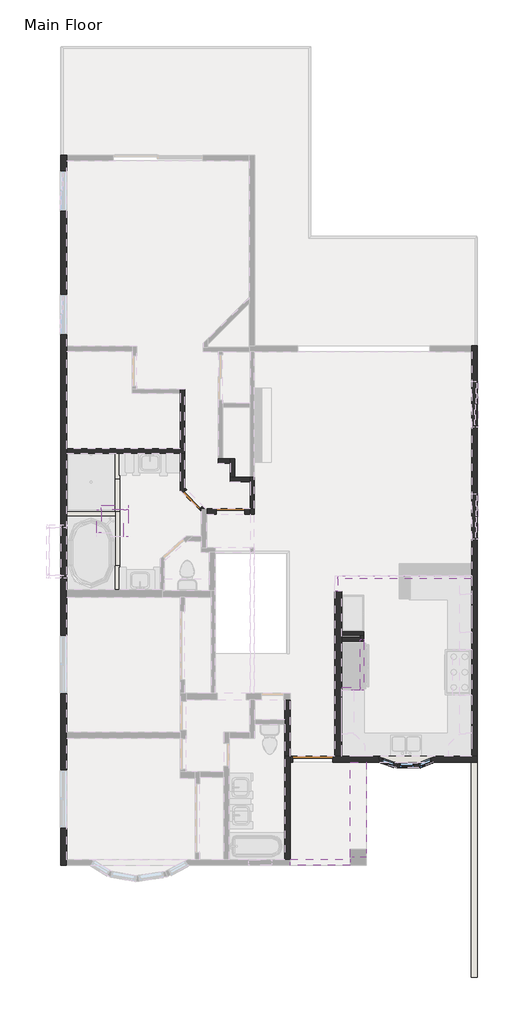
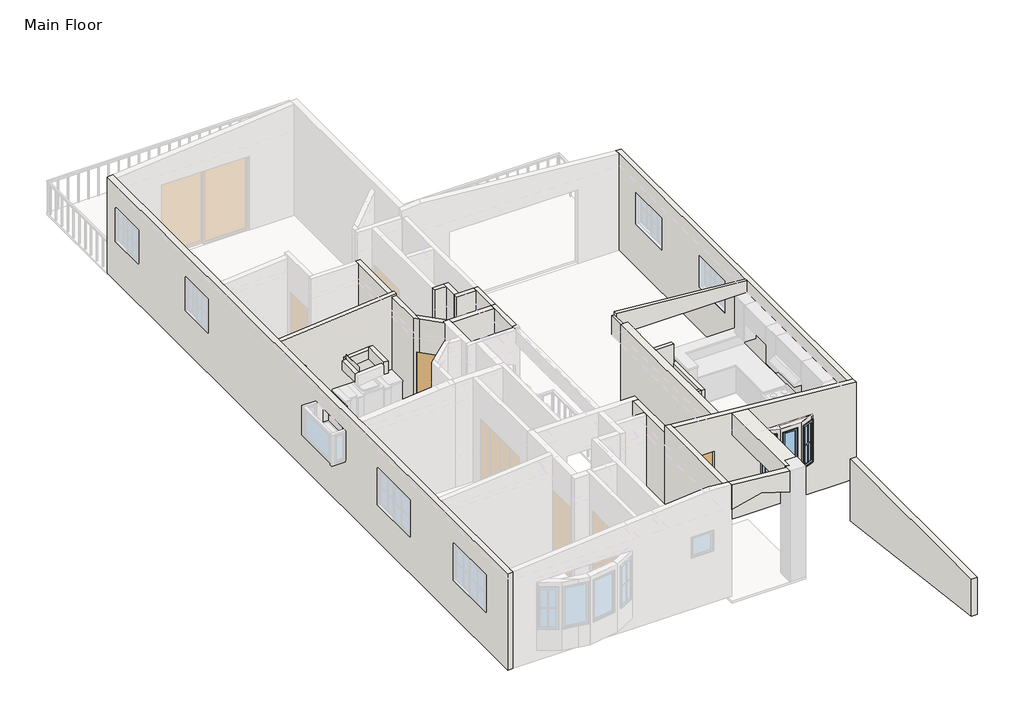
# One storey, part 2 of 5: 34 walls, 3 doors, 3 windows.
"""IFC4 building model written with IfcOpenShell, lengths in millimetres."""

from ifc_helpers import new_model, si_unit, frame, origin, place, context, project, spatial, polyline, circle_curve, outline, extrude, faceted_brep, transform, mapped, element, save
from ifc_brep_helpers import plane_surface, revolved_surface, advanced_brep
from components import door_c08c9a8a, door_87ea4745, door_3a0eedbf, default_1_126ee384, default_1_4d59abb0

model = new_model("IFC4")

# Units and contexts
model_context = context("Model", 3, world=origin())
ifc_project = project(units=[si_unit("LENGTHUNIT", "METRE", prefix="MILLI")], contexts=[model_context])

# Site, building, storey
site = spatial("IfcSite", under=ifc_project)
building = spatial("IfcBuilding", under=site)
storey = spatial("IfcBuildingStorey", under=building, Name="Main Floor", Elevation=0.0)

# Doors
placement = place(None, origin())
door_shape = door_c08c9a8a(model_context)
element("IfcDoor", 1, ObjectType="Planitar - Single Door_Flush Panel : 2'-6\" x 6'-8\" @45", at=placement, inside=storey, context=model_context, shape_type="MappedRepresentation", body=[
    mapped(door_shape, transform((-1337.5505931, 343.2061456, 0.0), x_axis=(1.0, 0.0, 0.0), y_axis=(0.0, 1.0, 0.0), z_axis=(0.0, 0.0, 1.0))),
])
door_2_shape = door_87ea4745(model_context)
element("IfcDoor", 2, ObjectType="Planitar - Single Door_Flush Panel : 2'-0\" x 6'-8\"", at=placement, inside=storey, context=model_context, shape_type="MappedRepresentation", body=[
    mapped(door_2_shape, transform((-2340.0457085, 658.2670783, 0.0), x_axis=(0.7071067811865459, -0.7071067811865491, 0.0), y_axis=(0.7071067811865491, 0.7071067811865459, 0.0), z_axis=(0.0, 0.0, 1.0))),
])
door_3_shape = door_3a0eedbf(model_context)
element("IfcDoor", 3, ObjectType="Planitar - Single Door_Flush Panel : 3'-6\" x 6'-8\"", at=placement, inside=storey, context=model_context, shape_type="MappedRepresentation", body=[
    mapped(door_3_shape, transform((841.2931569, -6241.7438544, 0.0), x_axis=(1.0, 0.0, 0.0), y_axis=(0.0, 1.0, 0.0), z_axis=(0.0, 0.0, 1.0))),
])

# Walls
element("IfcWall", 4, ObjectType="Planitar - Generic 6\"", at=placement, inside=storey, context=model_context, shape_type="Brep", body=[
    faceted_brep([(-5842.8755931, 9804.7061456, 0.0), (-5842.8755931, -9054.7938544, 0.0), (-5842.8755931, -9054.7938544, 2761.2885737), (-5842.8755931, 9804.7061456, 2761.2885737), (-5842.8755931, -6527.4938544, 2133.6), (-5842.8755931, -8051.4938544, 2133.6), (-5842.8755931, -8051.4938544, 1066.8), (-5842.8755931, -6527.4938544, 1066.8), (-5842.8755931, -2955.6188544, 2133.6), (-5842.8755931, -4479.6188544, 2133.6), (-5842.8755931, -4479.6188544, 1066.8), (-5842.8755931, -2955.6188544, 1066.8), (-5842.8755931, 6104.2436456, 2133.6), (-5842.8755931, 5037.4436456, 2133.6), (-5842.8755931, 5037.4436456, 1168.4), (-5842.8755931, 6104.2436456, 1168.4), (-5842.8755931, 9385.6061456, 2133.6), (-5842.8755931, 8318.8061456, 2133.6), (-5842.8755931, 8318.8061456, 1168.4), (-5842.8755931, 9385.6061456, 1168.4), (-5842.8755931, -12.3938544, 1422.4), (-5842.8755931, -12.3938544, 2235.2), (-5842.8755931, -12.3938544, 2260.6), (-5842.8755931, -88.5938544, 2260.6), (-5842.8755931, -1352.2438544, 2260.6), (-5842.8755931, -1428.4438544, 2260.6), (-5842.8755931, -1428.4438544, 2235.2), (-5842.8755931, -1428.4438544, 1422.4), (-5690.4755931, 9804.7061456, 0.0), (-5690.4755931, 9804.7061456, 2774.621846), (-5690.4755931, 9652.3061456, 2774.621846), (-5690.4755931, 4731.0561456, 2774.621846), (-5690.4755931, 4591.3561456, 2774.621846), (-5690.4755931, 2006.9061456, 2774.621846), (-5690.4755931, 1892.6061456, 2774.621846), (-5690.4755931, -1733.2438544, 2774.621846), (-5690.4755931, -1936.4438544, 2774.621846), (-5690.4755931, -5524.1938544, 2774.621846), (-5690.4755931, -5676.5938544, 2774.621846), (-5690.4755931, -8902.3938544, 2774.621846), (-5690.4755931, -9054.7938544, 2774.621846), (-5690.4755931, -9054.7938544, 0.0), (-5690.4755931, -8902.3938544, 0.0), (-5690.4755931, -5676.5938544, 0.0), (-5690.4755931, -5524.1938544, 0.0), (-5690.4755931, -1936.4438544, 0.0), (-5690.4755931, -1733.2438544, 0.0), (-5690.4755931, 215.6197467, 0.0), (-5690.4755931, 329.9197467, 0.0), (-5690.4755931, 1892.6061456, 0.0), (-5690.4755931, 2006.9061456, 0.0), (-5690.4755931, 4591.3561456, 0.0), (-5690.4755931, 4731.0561456, 0.0), (-5690.4755931, 9652.3061456, 0.0), (-5690.4755931, -12.3938544, 1422.4), (-5690.4755931, -88.5938544, 1422.4), (-5690.4755931, -1428.4438544, 1422.4), (-5690.4755931, -1428.4438544, 2260.6), (-5690.4755931, -1352.2438544, 2260.6), (-5690.4755931, -88.5938544, 2260.6), (-5690.4755931, -12.3938544, 2260.6), (-5690.4755931, -6527.4938544, 2133.6), (-5690.4755931, -6527.4938544, 1066.8), (-5690.4755931, -8051.4938544, 1066.8), (-5690.4755931, -8051.4938544, 2133.6), (-5690.4755931, -2955.6188544, 2133.6), (-5690.4755931, -2955.6188544, 1066.8), (-5690.4755931, -4479.6188544, 1066.8), (-5690.4755931, -4479.6188544, 2133.6), (-5690.4755931, 6104.2436456, 2133.6), (-5690.4755931, 6104.2436456, 1168.4), (-5690.4755931, 5037.4436456, 1168.4), (-5690.4755931, 5037.4436456, 2133.6), (-5690.4755931, 9385.6061456, 2133.6), (-5690.4755931, 9385.6061456, 1168.4), (-5690.4755931, 8318.8061456, 1168.4), (-5690.4755931, 8318.8061456, 2133.6)], [[[0, 1, 2, 3], [4, 5, 6, 7], [8, 9, 10, 11], [12, 13, 14, 15], [16, 17, 18, 19], [20, 21, 22, 23, 24, 25, 26, 27]], [[28, 29, 30, 31, 32, 33, 34, 35, 36, 37, 38, 39, 40, 41, 42, 43, 44, 45, 46, 47, 48, 49, 50, 51, 52, 53], [54, 55, 56, 57, 58, 59, 60], [61, 62, 63, 64], [65, 66, 67, 68], [69, 70, 71, 72], [73, 74, 75, 76]], [[0, 3, 29, 28]], [[3, 2, 40, 39, 38, 37, 36, 35, 34, 33, 32, 31, 30, 29]], [[2, 1, 41, 40]], [[1, 0, 28, 53, 52, 51, 50, 49, 48, 47, 46, 45, 44, 43, 42, 41]], [[25, 24, 23, 22, 60, 59, 58, 57]], [[20, 27, 56, 55, 54]], [[22, 21, 20, 54, 60]], [[27, 26, 25, 57, 56]], [[62, 61, 4, 7]], [[63, 62, 7, 6]], [[64, 63, 6, 5]], [[61, 64, 5, 4]], [[66, 65, 8, 11]], [[67, 66, 11, 10]], [[68, 67, 10, 9]], [[65, 68, 9, 8]], [[70, 69, 12, 15]], [[71, 70, 15, 14]], [[72, 71, 14, 13]], [[69, 72, 13, 12]], [[74, 73, 16, 19]], [[75, 74, 19, 18]], [[76, 75, 18, 17]], [[73, 76, 17, 16]]]),
])
element("IfcWall", 5, ObjectType="Planitar - Generic 6\"", at=placement, inside=storey, context=model_context, shape_type="Brep", body=[
    faceted_brep([(253.1244069, -8902.3938544, 3195.7310301), (253.1244069, -8902.3938544, 0.0), (253.1244069, -6317.9438544, 0.0), (253.1244069, -6165.5438544, 0.0), (253.1244069, -6165.5438544, 2997.2), (253.1244069, -6165.5438544, 3195.7310301), (253.1244069, -6317.9438544, 3195.7310301), (253.1244069, -8889.6938544, 3195.7310301), (100.7244069, -8902.3938544, 0.0), (100.7244069, -8902.3938544, 3209.0643025), (100.7244069, -6165.5438544, 3209.0643025), (100.7244069, -6165.5438544, 2997.2), (100.7244069, -6165.5438544, 0.0), (100.7244069, -6317.9438544, 0.0)], [[[0, 1, 2, 3, 4, 5, 6, 7]], [[8, 9, 10, 11, 12, 13]], [[3, 2, 1, 8, 13, 12]], [[5, 4, 3, 12, 11, 10]], [[0, 7, 6, 5, 10, 9]], [[0, 9, 8, 1]]]),
])
element("IfcWall", 6, ObjectType="Planitar - Generic 6\"", at=placement, inside=storey, context=model_context, shape_type="Brep", body=[
    faceted_brep([(5218.8244069, -6317.9438544, 2761.2885737), (2270.9820668, -6317.9438544, 3019.1913603), (1839.1820668, -6317.9438544, 3056.9689652), (253.1244069, -6317.9438544, 3195.7310301), (253.1244069, -6317.9438544, 0.0), (307.8931569, -6317.9438544, 0.0), (307.8931569, -6317.9438544, 2133.6), (1374.6931569, -6317.9438544, 2133.6), (1374.6931569, -6317.9438544, 0.0), (4875.9244069, -6317.9438544, 0.0), (5218.8244069, -6317.9438544, 0.0), (5218.8244069, -6317.9438544, 609.6), (2628.4521069, -6317.9438544, 2260.6), (3696.5240104, -6317.9438544, 2260.6), (3696.5240104, -6317.9438544, 2133.6), (4020.7133617, -6317.9438544, 2133.6), (4020.7133617, -6317.9438544, 914.4), (3696.5240104, -6317.9438544, 914.4), (3026.7162146, -6317.9438544, 914.4), (2628.4521069, -6317.9438544, 914.4), (253.1244069, -6165.5438544, 3195.7310301), (5066.4244069, -6165.5438544, 2774.621846), (5218.8244069, -6165.5438544, 2761.2885737), (5218.8244069, -6165.5438544, 0.0), (5066.4244069, -6165.5438544, 0.0), (4875.9244069, -6165.5438544, 0.0), (1618.3744069, -6165.5438544, 0.0), (1427.8744069, -6165.5438544, 0.0), (1374.6931569, -6165.5438544, 0.0), (1374.6931569, -6165.5438544, 2133.6), (307.8931569, -6165.5438544, 2133.6), (307.8931569, -6165.5438544, 0.0), (253.1244069, -6165.5438544, 0.0), (4093.5395839, -6165.5438544, 2260.6), (2573.7495146, -6165.5438544, 2260.6), (2573.7495146, -6165.5438544, 914.4), (4093.5395839, -6165.5438544, 914.4), (3979.0785055, -6209.4813458, 914.4), (3979.0785055, -6209.4813458, 2133.6)], [[[0, 1, 2, 3, 4, 5, 6, 7, 8, 9, 10, 11], [12, 13, 14, 15, 16, 17, 18, 19]], [[20, 21, 22, 23, 24, 25, 26, 27, 28, 29, 30, 31, 32], [33, 34, 35, 36]], [[3, 2, 1, 0, 22, 21, 20]], [[37, 16, 15, 38]], [[38, 15, 14]], [[0, 11, 10, 23, 22]], [[31, 30, 6, 5]], [[30, 29, 7, 6]], [[29, 28, 8, 7]], [[4, 3, 20, 32]], [[31, 5, 4, 32]], [[8, 28, 27, 26, 25, 24, 23, 10, 9]], [[13, 12, 34, 33]], [[36, 35, 19, 18, 17, 16, 37]], [[12, 19, 35, 34]], [[13, 33, 36, 37, 38, 14]]]),
])
element("IfcWall", 7, ObjectType="Planitar - Generic 6\"", at=placement, inside=storey, context=model_context, shape_type="Brep", body=[
    faceted_brep([(5218.8244069, -6165.5438544, 0.0), (5218.8244069, -2895.2938544, 0.0), (5218.8244069, 4737.4061456, 0.0), (5218.8244069, 4737.4061456, 2761.2885737), (5218.8244069, -6165.5438544, 2761.2885737), (5218.8244069, 2583.9623956, 2133.6), (5218.8244069, 3803.1623956, 2133.6), (5218.8244069, 3803.1623956, 1219.2), (5218.8244069, 2583.9623956, 1219.2), (5218.8244069, -402.9188544, 1219.2), (5218.8244069, -402.9188544, 2133.6), (5218.8244069, 816.2811456, 2133.6), (5218.8244069, 816.2811456, 1219.2), (5066.4244069, 4737.4061456, 0.0), (5066.4244069, 4585.0061456, 0.0), (5066.4244069, -6165.5438544, 0.0), (5066.4244069, -6165.5438544, 2774.621846), (5066.4244069, -1441.1438544, 2774.621846), (5066.4244069, -1364.9438544, 2774.621846), (5066.4244069, 4585.0061456, 2774.621846), (5066.4244069, 4737.4061456, 2774.621846), (5066.4244069, 2583.9623956, 2133.6), (5066.4244069, 2583.9623956, 1219.2), (5066.4244069, 3803.1623956, 1219.2), (5066.4244069, 3803.1623956, 2133.6), (5066.4244069, -402.9188544, 2133.6), (5066.4244069, -402.9188544, 1219.2), (5066.4244069, 816.2811456, 1219.2), (5066.4244069, 816.2811456, 2133.6)], [[[0, 1, 2, 3, 4], [5, 6, 7, 8], [9, 10, 11, 12]], [[13, 14, 15, 16, 17, 18, 19, 20], [21, 22, 23, 24], [25, 26, 27, 28]], [[2, 1, 0, 15, 14, 13]], [[3, 2, 13, 20]], [[4, 3, 20, 19, 18, 17, 16]], [[22, 21, 5, 8]], [[23, 22, 8, 7]], [[24, 23, 7, 6]], [[21, 24, 6, 5]], [[25, 10, 9, 26]], [[26, 9, 12, 27]], [[27, 12, 11, 28]], [[10, 25, 28, 11]], [[15, 0, 4, 16]]]),
])
element("IfcWall", 8, ObjectType="Planitar - Generic 7 1/2\"", at=placement, inside=storey, context=model_context, shape_type="Brep", body=[
    faceted_brep([(1427.8744069, -1784.0438544, 0.0), (1427.8744069, -6165.5438544, 0.0), (1427.8744069, -6165.5438544, 2997.2), (1427.8744069, -1784.0438544, 2997.2), (1427.8744069, -1784.0438544, 2451.1), (1618.3744069, -1784.0438544, 0.0), (1618.3744069, -1784.0438544, 2997.2), (1618.3744069, -2996.8938544, 2997.2), (1618.3744069, -3111.1938544, 2997.2), (1618.3744069, -6165.5438544, 2997.2), (1618.3744069, -6165.5438544, 0.0), (1618.3744069, -3111.1938544, 0.0), (1618.3744069, -2996.8938544, 0.0), (1618.3744069, -2939.7438544, 0.0), (1618.3744069, -2850.8438544, 0.0), (1504.0744069, -1784.0438544, 2997.2)], [[[0, 1, 2, 3, 4]], [[5, 6, 7, 8, 9, 10, 11, 12, 13, 14]], [[1, 0, 5, 14, 13, 12, 11, 10]], [[3, 2, 9, 8, 7, 6, 15]], [[0, 4, 3, 15, 6, 5]], [[2, 1, 10, 9]]]),
])
element("IfcWall", 9, ObjectType="Planitar - Generic 5\"", at=placement, inside=storey, context=model_context, shape_type="Brep", body=[
    faceted_brep([(2628.4521069, -6317.9438544, 876.3), (3081.4188069, -6470.3438544, 876.3), (3081.4188069, -6470.3438544, 2260.6), (2628.4521069, -6317.9438544, 2260.6), (2656.6541713, -6327.4323987, 914.4), (2656.6541713, -6327.4323987, 2133.6), (2993.6896447, -6440.8275029, 2133.6), (2993.6896447, -6440.8275029, 914.4), (3102.2106646, -6343.3438544, 876.3), (2573.7495146, -6165.5438544, 876.3), (2573.7495146, -6165.5438544, 2260.6), (3102.2106646, -6343.3438544, 2260.6), (2697.1524228, -6207.0625868, 2133.6), (2697.1524228, -6207.0625868, 914.4), (3034.1878962, -6320.457691, 914.4), (3034.1878962, -6320.457691, 2133.6)], [[[0, 1, 2, 3], [4, 5, 6, 7]], [[8, 9, 10, 11], [12, 13, 14, 15]], [[1, 0, 9, 8]], [[3, 2, 11, 10]], [[2, 1, 8, 11]], [[12, 5, 4, 13]], [[13, 4, 7, 14]], [[14, 7, 6, 15]], [[5, 12, 15, 6]], [[9, 0, 3, 10]]]),
])
element("IfcWall", 10, ObjectType="Planitar - Generic 5\"", at=placement, inside=storey, context=model_context, shape_type="Brep", body=[
    faceted_brep([(3081.4188069, -6470.3438544, 876.3), (3653.8928069, -6470.3438544, 876.3), (3653.8928069, -6470.3438544, 2260.6), (3081.4188069, -6470.3438544, 2260.6), (3546.62509, -6470.3438544, 914.4), (3140.22509, -6470.3438544, 914.4), (3140.22509, -6470.3438544, 2133.6), (3546.62509, -6470.3438544, 2133.6), (3984.7391181, -6343.3438544, 876.3), (3630.3547482, -6343.3438544, 876.3), (3102.2106646, -6343.3438544, 876.3), (3102.2106646, -6343.3438544, 2260.6), (3630.3547482, -6343.3438544, 2260.6), (3984.7391181, -6343.3438544, 2260.6), (3984.7391181, -6343.3438544, 2133.6), (3649.5643485, -6343.3438544, 2133.6), (3649.5643485, -6343.3438544, 914.4), (3984.7391181, -6343.3438544, 914.4), (3546.62509, -6343.3438544, 914.4), (3546.62509, -6343.3438544, 2133.6), (3140.22509, -6343.3438544, 2133.6), (3140.22509, -6343.3438544, 914.4), (3692.6100354, -6455.4817028, 914.4), (3692.6100354, -6455.4817028, 2133.6)], [[[0, 1, 2, 3], [4, 5, 6, 7]], [[8, 9, 10, 11, 12, 13, 14, 15, 16, 17], [18, 19, 20, 21]], [[1, 0, 10, 9, 8]], [[3, 2, 13, 12, 11]], [[0, 3, 11, 10]], [[2, 1, 8, 17, 22, 23, 14, 13]], [[19, 18, 4, 7]], [[20, 19, 7, 6]], [[21, 20, 6, 5]], [[18, 21, 5, 4]], [[15, 23, 22, 16]], [[16, 22, 17]], [[23, 15, 14]]]),
])
element("IfcWall", 11, ObjectType="Planitar - Generic 5\"", at=placement, inside=storey, context=model_context, shape_type="Brep", body=[
    faceted_brep([(3984.7391181, -6343.3438544, 876.3), (4050.9083803, -6317.9438544, 876.3), (4050.9083803, -6317.9438544, 2260.6), (3984.7391181, -6343.3438544, 2260.6), (3984.7391181, -6343.3438544, 2133.6), (4024.5912351, -6328.0460599, 2133.6), (4024.5912351, -6328.0460599, 914.4), (3984.7391181, -6343.3438544, 914.4), (3696.5240104, -6317.9438544, 876.3), (3630.3547482, -6343.3438544, 876.3), (3630.3547482, -6343.3438544, 2260.6), (3696.5240104, -6317.9438544, 2260.6), (3696.5240104, -6317.9438544, 2133.6), (3647.0973058, -6336.9169886, 2133.6), (3647.0973058, -6336.9169886, 914.4), (3696.5240104, -6317.9438544, 914.4), (3649.5643485, -6343.3438544, 914.4), (3649.5643485, -6343.3438544, 2133.6), (4020.7133617, -6317.9438544, 914.4), (4020.7133617, -6317.9438544, 2133.6)], [[[0, 1, 2, 3, 4, 5, 6, 7]], [[8, 9, 10, 11, 12, 13, 14, 15]], [[1, 0, 9, 8]], [[3, 2, 11, 10]], [[3, 10, 9, 0, 7, 16, 17, 4]], [[13, 17, 16, 14]], [[14, 16, 7, 6, 18, 15]], [[18, 6, 5, 19]], [[17, 13, 12, 19, 5, 4]], [[2, 1, 8, 15, 18, 19, 12, 11]]]),
])
element("IfcWall", 12, ObjectType="Planitar - Generic 6\"", at=placement, inside=storey, context=model_context, shape_type="Brep", body=[
    faceted_brep([(100.7244069, -4654.2438544, 0.0), (100.7244069, -5193.9938544, 0.0), (100.7244069, -5308.2938544, 0.0), (100.7244069, -6165.5438544, 0.0), (100.7244069, -6165.5438544, 2997.2), (100.7244069, -5308.2938544, 2997.2), (100.7244069, -5193.9938544, 2997.2), (100.7244069, -4654.2438544, 2997.2), (253.1244069, -4654.2438544, 0.0), (253.1244069, -4654.2438544, 2997.2), (253.1244069, -6165.5438544, 2997.2), (253.1244069, -6165.5438544, 0.0)], [[[0, 1, 2, 3, 4, 5, 6, 7]], [[8, 9, 10, 11]], [[3, 2, 1, 0, 8, 11]], [[7, 6, 5, 4, 10, 9]], [[4, 3, 11, 10]], [[0, 7, 9, 8]]]),
])
element("IfcWall", 13, ObjectType="Planitar - Generic 6\"", at=placement, inside=storey, context=model_context, shape_type="Brep", body=[
    faceted_brep([(-956.5505931, 267.0061456, 2032.0), (-956.5505931, 267.0061456, 0.0), (-820.0255931, 267.0061456, 0.0), (-820.0255931, 267.0061456, 2001.1338916), (-820.0255931, 267.0061456, 2997.2), (-1969.3755931, 267.0061456, 2997.2), (-1969.3755931, 267.0061456, 0.0), (-1718.5505931, 267.0061456, 0.0), (-1718.5505931, 267.0061456, 2032.0), (-820.0255931, 419.4061456, 0.0), (-956.5505931, 419.4061456, 0.0), (-956.5505931, 419.4061456, 2032.0), (-1718.5505931, 419.4061456, 2032.0), (-1718.5505931, 419.4061456, 0.0), (-1969.3755931, 419.4061456, 0.0), (-1969.3755931, 419.4061456, 2997.2), (-820.0255931, 419.4061456, 2997.2)], [[[0, 1, 2, 3, 4, 5, 6, 7, 8]], [[9, 10, 11, 12, 13, 14, 15, 16]], [[7, 6, 14, 13]], [[2, 1, 10, 9]], [[5, 4, 16, 15]], [[6, 5, 15, 14]], [[2, 9, 16, 4, 3]], [[11, 10, 1, 0]], [[12, 11, 0, 8]], [[13, 12, 8, 7]]]),
])
element("IfcWall", 14, ObjectType="Planitar - Generic 4 1/2\"", at=placement, inside=storey, context=model_context, shape_type="Brep", body=[
    faceted_brep([(-5690.4755931, 1892.6061456, 0.0), (-4394.2755931, 1892.6061456, 0.0), (-4279.9755931, 1892.6061456, 0.0), (-2667.8755931, 1892.6061456, 0.0), (-2553.5755931, 1892.6061456, 0.0), (-2553.5755931, 1892.6061456, 2997.2), (-2553.5755931, 1892.6061456, 3049.0650346), (-5690.4755931, 1892.6061456, 2774.621846), (-5690.4755931, 2006.9061456, 0.0), (-5690.4755931, 2006.9061456, 2774.621846), (-2553.5755931, 2006.9061456, 3049.0650346), (-2553.5755931, 2006.9061456, 2997.2), (-2553.5755931, 2006.9061456, 0.0), (-2667.8755931, 2006.9061456, 0.0)], [[[0, 1, 2, 3, 4, 5, 6, 7]], [[8, 9, 10, 11, 12, 13]], [[4, 3, 2, 1, 0, 8, 13, 12]], [[0, 7, 9, 8]], [[6, 5, 4, 12, 11, 10]], [[7, 6, 10, 9]]]),
])
element("IfcWall", 15, ObjectType="Planitar - Generic 4 1/2\"", at=placement, inside=storey, context=model_context, shape_type="Brep", body=[
    faceted_brep([(-2667.8755931, 1892.6061456, 0.0), (-2667.8755931, 887.3141456, 0.0), (-2667.8755931, 887.3141456, 2997.2), (-2667.8755931, 1892.6061456, 2997.2), (-2553.5755931, 1892.6061456, 2997.2), (-2553.5755931, 970.5797803, 2997.2), (-2553.5755931, 773.0141456, 2997.2), (-2553.5755931, 773.0141456, 2032.0), (-2553.5755931, 875.7894875, 2032.0), (-2553.5755931, 875.7894875, 0.0), (-2553.5755931, 970.5797803, 0.0), (-2553.5755931, 1892.6061456, 0.0), (-2604.963264, 824.4018165, 0.0), (-2604.963264, 824.4018165, 2032.0)], [[[0, 1, 2, 3]], [[4, 5, 6, 7, 8, 9, 10, 11]], [[1, 0, 11, 10, 9, 12]], [[3, 2, 6, 5, 4]], [[0, 3, 4, 11]], [[2, 1, 12, 13, 7, 6]], [[13, 8, 7]], [[8, 13, 12, 9]]]),
])
element("IfcWall", 16, ObjectType="Planitar - Generic 5 1/2\"", at=placement, inside=storey, context=model_context, shape_type="Brep", body=[
    faceted_brep([(-2121.7755931, 341.2141456, 2997.2), (-2553.5755931, 773.0141456, 2997.2), (-2553.5755931, 773.0141456, 2032.0), (-2173.9109702, 393.3495227, 2032.0), (-2173.9109702, 393.3495227, 0.0), (-2121.7755931, 341.2141456, 0.0), (-2002.4019585, 419.4061456, 2997.2), (-2002.4019585, 419.4061456, 0.0), (-2075.1281529, 492.1323401, 0.0), (-2075.1281529, 492.1323401, 2032.0), (-2506.1804467, 923.1846339, 2032.0), (-2506.1804467, 923.1846339, 0.0), (-2553.5755931, 970.5797803, 0.0), (-2553.5755931, 970.5797803, 2997.2), (-2121.7755931, 419.4061456, 0.0), (-2553.5755931, 875.7894875, 0.0), (-2121.7755931, 419.4061456, 2997.2), (-2553.5755931, 875.7894875, 2032.0)], [[[0, 1, 2, 3, 4, 5]], [[6, 7, 8, 9, 10, 11, 12, 13]], [[7, 14, 5, 4, 8]], [[12, 11, 15]], [[1, 0, 16, 6, 13]], [[1, 13, 12, 15, 17, 2]], [[0, 5, 14, 16]], [[7, 6, 16, 14]], [[3, 9, 8, 4]], [[9, 3, 2, 17, 10]], [[10, 17, 15, 11]]]),
])
element("IfcWall", 17, ObjectType="Planitar - Generic 4 1/2\"", at=placement, inside=storey, context=model_context, shape_type="Brep", body=[
    faceted_brep([(-2553.5755931, 2006.9061456, 0.0), (-2553.5755931, 3588.0561456, 0.0), (-2553.5755931, 3588.0561456, 2997.2), (-2553.5755931, 2006.9061456, 2997.2), (-2667.8755931, 2006.9061456, 0.0), (-2667.8755931, 2006.9061456, 2997.2), (-2667.8755931, 3473.7561456, 2997.2), (-2667.8755931, 3588.0561456, 2997.2), (-2667.8755931, 3588.0561456, 0.0), (-2667.8755931, 3473.7561456, 0.0)], [[[0, 1, 2, 3]], [[4, 5, 6, 7, 8, 9]], [[1, 0, 4, 9, 8]], [[3, 2, 7, 6, 5]], [[0, 3, 5, 4]], [[2, 1, 8, 7]]]),
])
element("IfcWall", 18, ObjectType="Planitar - Generic 4 1/2\"", at=placement, inside=storey, context=model_context, shape_type="Brep", body=[
    faceted_brep([(-705.7255931, 419.4061456, 2997.2), (-705.7255931, 419.4061456, 0.0), (-705.7255931, 1244.9061456, 0.0), (-705.7255931, 1244.9061456, 2997.2), (-820.0255931, 419.4061456, 0.0), (-820.0255931, 419.4061456, 2997.2), (-820.0255931, 1130.6061456, 2997.2), (-820.0255931, 1244.9061456, 2997.2), (-820.0255931, 1244.9061456, 0.0), (-820.0255931, 1130.6061456, 0.0)], [[[0, 1, 2, 3]], [[4, 5, 6, 7, 8, 9]], [[2, 1, 4, 9, 8]], [[0, 3, 7, 6, 5]], [[3, 2, 8, 7]], [[0, 5, 4, 1]]]),
])
element("IfcWall", 19, ObjectType="Planitar - Generic 4 1/2\"", at=placement, inside=storey, context=model_context, shape_type="Brep", body=[
    faceted_brep([(-820.0255931, 1244.9061456, 0.0), (-1226.4255931, 1244.9061456, 0.0), (-1340.7255931, 1244.9061456, 0.0), (-1340.7255931, 1244.9061456, 2997.2), (-1226.4255931, 1244.9061456, 2997.2), (-820.0255931, 1244.9061456, 2997.2), (-820.0255931, 1130.6061456, 0.0), (-820.0255931, 1130.6061456, 2997.2), (-1340.7255931, 1130.6061456, 2997.2), (-1340.7255931, 1130.6061456, 0.0)], [[[0, 1, 2, 3, 4, 5]], [[6, 7, 8, 9]], [[2, 1, 0, 6, 9]], [[5, 4, 3, 8, 7]], [[0, 5, 7, 6]], [[3, 2, 9, 8]]]),
])
element("IfcWall", 20, ObjectType="Planitar - Generic 4 1/2\"", at=placement, inside=storey, context=model_context, shape_type="Brep", body=[
    faceted_brep([(-1226.4255931, 1244.9061456, 0.0), (-1226.4255931, 1740.2061456, 0.0), (-1226.4255931, 1740.2061456, 2997.2), (-1226.4255931, 1244.9061456, 2997.2), (-1340.7255931, 1244.9061456, 0.0), (-1340.7255931, 1244.9061456, 2997.2), (-1340.7255931, 1625.9061456, 2997.2), (-1340.7255931, 1740.2061456, 2997.2), (-1340.7255931, 1740.2061456, 0.0), (-1340.7255931, 1625.9061456, 0.0)], [[[0, 1, 2, 3]], [[4, 5, 6, 7, 8, 9]], [[1, 0, 4, 9, 8]], [[3, 2, 7, 6, 5]], [[0, 3, 5, 4]], [[2, 1, 8, 7]]]),
])
element("IfcWall", 21, ObjectType="Planitar - Generic 4 1/2\"", at=placement, inside=storey, context=model_context, shape_type="Brep", body=[
    faceted_brep([(-1340.7255931, 1740.2061456, 0.0), (-1543.9255931, 1740.2061456, 0.0), (-1658.2255931, 1740.2061456, 0.0), (-1658.2255931, 1740.2061456, 2997.2), (-1543.9255931, 1740.2061456, 2997.2), (-1340.7255931, 1740.2061456, 2997.2), (-1340.7255931, 1625.9061456, 0.0), (-1340.7255931, 1625.9061456, 2997.2), (-1658.2255931, 1625.9061456, 2997.2), (-1658.2255931, 1625.9061456, 0.0)], [[[0, 1, 2, 3, 4, 5]], [[6, 7, 8, 9]], [[2, 1, 0, 6, 9]], [[5, 4, 3, 8, 7]], [[0, 5, 7, 6]], [[3, 2, 9, 8]]]),
])
element("IfcWall", 22, ObjectType="Planitar - Generic 3\"", at=placement, inside=storey, context=model_context, shape_type="Brep", body=[
    faceted_brep([(1504.0744069, -1784.0438544, 2451.1), (1504.0744069, -1441.1438544, 2451.1), (1504.0744069, -1364.9438544, 2451.1), (1504.0744069, -1364.9438544, 2997.2), (1504.0744069, -1784.0438544, 2997.2), (1427.8744069, -1784.0438544, 2451.1), (1427.8744069, -1784.0438544, 2997.2), (1427.8744069, -1364.9438544, 2997.2), (1427.8744069, -1364.9438544, 2451.1)], [[[0, 1, 2, 3, 4]], [[5, 6, 7, 8]], [[2, 1, 0, 5, 8]], [[4, 3, 7, 6]], [[0, 4, 6, 5]], [[3, 2, 8, 7]]]),
])
element("IfcWall", 23, ObjectType="Planitar - Generic 3\"", at=placement, inside=storey, context=model_context, shape_type="Brep", body=[
    faceted_brep([(1504.0744069, -1441.1438544, 2451.1), (5066.4244069, -1441.1438544, 2451.1), (5066.4244069, -1441.1438544, 2774.621846), (1504.0744069, -1441.1438544, 3086.2870865), (1504.0744069, -1364.9438544, 2451.1), (1504.0744069, -1364.9438544, 2997.2), (1504.0744069, -1364.9438544, 3086.2870865), (5066.4244069, -1364.9438544, 2774.621846), (5066.4244069, -1364.9438544, 2451.1)], [[[0, 1, 2, 3]], [[4, 5, 6, 7, 8]], [[1, 0, 4, 8]], [[0, 3, 6, 5, 4]], [[2, 1, 8, 7]], [[3, 2, 7, 6]]]),
])
element("IfcWall", 24, ObjectType="Planitar - Generic 4 1/2\"", at=placement, inside=storey, context=model_context, shape_type="Brep", body=[
    faceted_brep([(-4279.9755931, -1733.2438544, 0.0), (-4279.9755931, 1892.6061456, 0.0), (-4279.9755931, 1892.6061456, 838.2), (-4279.9755931, 1213.1561456, 838.2), (-4279.9755931, 1213.1561456, 101.6), (-4279.9755931, 329.9197467, 101.6), (-4279.9755931, 329.9197467, 457.2), (-4279.9755931, -1098.2438544, 457.2), (-4279.9755931, -1098.2438544, 838.2), (-4279.9755931, -1733.2438544, 838.2), (-4394.2755931, -1733.2438544, 0.0), (-4394.2755931, -1733.2438544, 838.2), (-4394.2755931, -1098.2438544, 838.2), (-4394.2755931, -1098.2438544, 457.2), (-4394.2755931, 215.6197467, 457.2), (-4394.2755931, 329.9197467, 457.2), (-4394.2755931, 329.9197467, 101.6), (-4394.2755931, 1213.1561456, 101.6), (-4394.2755931, 1213.1561456, 838.2), (-4394.2755931, 1892.6061456, 838.2), (-4394.2755931, 1892.6061456, 0.0), (-4394.2755931, 329.9197467, 0.0), (-4394.2755931, 215.6197467, 0.0)], [[[0, 1, 2, 3, 4, 5, 6, 7, 8, 9]], [[10, 11, 12, 13, 14, 15, 16, 17, 18, 19, 20, 21, 22]], [[0, 9, 11, 10]], [[2, 1, 20, 19]], [[1, 0, 10, 22, 21, 20]], [[3, 2, 19, 18]], [[4, 3, 18, 17]], [[5, 4, 17, 16]], [[7, 6, 15, 14, 13]], [[8, 7, 13, 12]], [[9, 8, 12, 11]], [[6, 5, 16, 15]]]),
])
element("IfcWall", 25, ObjectType="Planitar - Generic 3 1/2\"", at=placement, inside=storey, context=model_context, shape_type="Brep", body=[
    faceted_brep([(1618.3744069, -2939.7438544, 0.0), (2107.3244069, -2939.7438544, 0.0), (2196.2244069, -2939.7438544, 0.0), (2196.2244069, -2939.7438544, 2451.1), (2107.3244069, -2939.7438544, 2451.1), (1618.3744069, -2939.7438544, 2451.1), (1618.3744069, -2850.8438544, 0.0), (1618.3744069, -2850.8438544, 2451.1), (2196.2244069, -2850.8438544, 2451.1), (2196.2244069, -2850.8438544, 0.0)], [[[0, 1, 2, 3, 4, 5]], [[6, 7, 8, 9]], [[2, 1, 0, 6, 9]], [[5, 4, 3, 8, 7]], [[0, 5, 7, 6]], [[3, 2, 9, 8]]]),
])
element("IfcWall", 26, ObjectType="Planitar - Generic 3 1/2\"", at=placement, inside=storey, context=model_context, shape_type="Brep", body=[
    faceted_brep([(2107.3244069, -3054.0438544, 2133.6), (2107.3244069, -3111.1938544, 2133.6), (2107.3244069, -4322.3011255, 2133.6), (2107.3244069, -4411.2011255, 2133.6), (2107.3244069, -4411.2011255, 2451.1), (2107.3244069, -4322.3011255, 2451.1), (2107.3244069, -3054.0438544, 2451.1), (2196.2244069, -3054.0438544, 2133.6), (2196.2244069, -3054.0438544, 2451.1), (2196.2244069, -4411.2011255, 2451.1), (2196.2244069, -4411.2011255, 2133.6), (2196.2244069, -3111.1938544, 2133.6)], [[[0, 1, 2, 3, 4, 5, 6]], [[7, 8, 9, 10, 11]], [[3, 2, 1, 0, 7, 11, 10]], [[6, 5, 4, 9, 8]], [[0, 6, 8, 7]], [[4, 3, 10, 9]]]),
])
element("IfcWall", 27, ObjectType="Planitar - Generic 3 1/2\"", at=placement, inside=storey, context=model_context, shape_type="Brep", body=[
    faceted_brep([(2107.3244069, -2939.7438544, 0.0), (2107.3244069, -2996.8938544, 0.0), (2107.3244069, -3111.1938544, 0.0), (2107.3244069, -3111.1938544, 2133.6), (2107.3244069, -3054.0438544, 2133.6), (2107.3244069, -3054.0438544, 2451.1), (2107.3244069, -2939.7438544, 2451.1), (2196.2244069, -2939.7438544, 0.0), (2196.2244069, -2939.7438544, 2451.1), (2196.2244069, -3054.0438544, 2451.1), (2196.2244069, -3054.0438544, 2133.6), (2196.2244069, -3111.1938544, 2133.6), (2196.2244069, -3111.1938544, 0.0)], [[[0, 1, 2, 3, 4, 5, 6]], [[7, 8, 9, 10, 11, 12]], [[2, 1, 0, 7, 12]], [[6, 5, 9, 8]], [[0, 6, 8, 7]], [[5, 4, 10, 9]], [[10, 4, 3, 11]], [[3, 2, 12, 11]]]),
])
element("IfcWall", 28, ObjectType="Planitar - Generic 3 1/2\"", at=placement, inside=storey, context=model_context, shape_type="SweptSolid", body=[
    extrude(outline(polyline([(1618.3744069, -4322.3011255), (2107.3244069, -4322.3011255), (2107.3244069, -4411.2011255), (1618.3744069, -4411.2011255), (1618.3744069, -4322.3011255)])), frame((0.0, 0.0, 2133.6), z_axis=(0.0, 0.0, 1.0), x_axis=(1.0, 0.0, 0.0)), (0.0, 0.0, 1.0), 317.5),
])
element("IfcWall", 29, ObjectType="Planitar - Generic 4 1/2\"", at=placement, inside=storey, context=model_context, shape_type="AdvancedBrep", body=[
    advanced_brep(
    [(-820.0255931, 419.4061456, 0.0), (-820.0255931, 267.0061456, 0.0), (-820.0255931, 267.0061456, 2001.1338916), (-820.0255931, -628.3438544, 1990.7077527), (-820.0255931, -628.3438544, 0.0), (-820.0255931, -685.4938544, 0.0), (-820.0255931, -685.4938544, 2997.2), (-820.0255931, -628.3438544, 2997.2), (-820.0255931, 267.0061456, 2997.2), (-820.0255931, 419.4061456, 2997.2), (-705.7255931, 419.4061456, 0.0), (-705.7255931, 419.4061456, 2997.2), (-705.7255931, -628.3438544, 2997.2), (-705.7255931, -685.4938544, 2997.2), (-705.7255931, -685.4938544, 0.0), (-705.7255931, -628.3438544, 0.0), (-705.7255931, -628.3438544, 1990.7077527), (-705.7255931, 267.0061456, 2001.1338916), (-705.7255931, 267.0061456, 0.0)],
    [
        (0, 1),
        (1, 2),
        (2, 3, circle_curve(frame((-820.0255931, -171.1438544, 1177.9565824), z_axis=(1.0, 0.0, 0.0), x_axis=(0.0, 1.0, 0.0)), 932.5214768)),
        (3, 4),
        (4, 5),
        (5, 6),
        (6, 7),
        (7, 8),
        (8, 9),
        (9, 0),
        (10, 11),
        (11, 12),
        (12, 13),
        (13, 14),
        (14, 15),
        (15, 16),
        (16, 17, circle_curve(frame((-705.7255931, -171.1438544, 1177.9565824), z_axis=(-1.0, 0.0, 0.0), x_axis=(0.0, 1.0, 0.0)), 932.5214768)),
        (17, 18),
        (18, 10),
        (5, 14),
        (13, 6),
        (11, 9),
        (0, 10),
        (18, 1),
        (17, 2),
        (16, 3),
        (15, 4),
    ],
    [
        plane_surface(frame((-820.0255931, 267.0061456, 0.0), z_axis=(-1.0, 0.0, 0.0), x_axis=(0.0, -1.0, 0.0))),
        plane_surface(frame((-705.7255931, 267.0061456, 0.0), z_axis=(1.0, 0.0, 0.0), x_axis=(0.0, 1.0, 0.0))),
        plane_surface(frame((-820.0255931, -685.4938544, 0.0), z_axis=(0.0, -1.0, 0.0), x_axis=(1.0, 0.0, 0.0))),
        plane_surface(frame((-820.0255931, -685.4938544, 2997.2), z_axis=(0.0, 0.0, 1.0), x_axis=(1.0, 0.0, 0.0))),
        plane_surface(frame((-820.0255931, 343.2061456, 0.0), z_axis=(0.0, 0.0, -1.0), x_axis=(1.0, 0.0, 0.0))),
        plane_surface(frame((-820.0255931, 267.0061456, 0.0), z_axis=(0.0, -1.0, 0.0), x_axis=(1.0, 0.0, 0.0))),
        revolved_surface(polyline([(-705.7255931, 761.3776224, 1177.9565824), (-820.0255931, 761.3776224, 1177.9565824)]), (-705.7255931, -171.1438544, 1177.9565824), (1.0, 0.0, 0.0)),
        plane_surface(frame((-820.0255931, -628.3438544, 1990.7077527), z_axis=(0.0, 1.0, 0.0), x_axis=(1.0, 0.0, 0.0))),
        plane_surface(frame((-820.0255931, -628.3438544, 0.0), z_axis=(0.0, 0.0, -1.0), x_axis=(1.0, 0.0, 0.0))),
        plane_surface(frame((-1969.3755931, 419.4061456, 0.0), z_axis=(0.0, 1.0, 0.0), x_axis=(-1.0, 0.0, 0.0))),
    ],
    [
        (0, [[1, 2, 3, 4, 5, 6, 7, 8, 9, 10]]),
        (1, [[11, 12, 13, 14, 15, 16, 17, 18, 19]]),
        (2, [[-6, 20, -14, 21]]),
        (3, [[-9, -8, -7, -21, -13, -12, 22]]),
        (4, [[-1, 23, -19, 24]]),
        (5, [[-2, -24, -18, 25]]),
        (6, [[-3, -25, -17, 26]]),
        (7, [[-4, -26, -16, 27]]),
        (8, [[-5, -27, -15, -20]]),
        (9, [[-10, -22, -11, -23]]),
    ],
),
])
element("IfcWall", 30, ObjectType="Planitar - Generic 1' - 5\"", at=placement, inside=storey, context=model_context, shape_type="Brep", body=[
    faceted_brep([(2270.9820668, -8838.8938544, 2438.4), (2270.9820668, -8622.9938544, 2438.4), (2270.9820668, -6317.9438544, 2438.4), (2270.9820668, -6317.9438544, 3019.1913603), (2270.9820668, -8622.9938544, 3019.1913603), (2270.9820668, -8838.8938544, 3019.1913603), (1839.1820668, -8838.8938544, 2438.4), (1839.1820668, -8838.8938544, 3056.9689652), (1839.1820668, -6317.9438544, 3056.9689652), (1839.1820668, -6317.9438544, 2438.4), (1840.6244069, -8838.8938544, 2438.4), (1941.697808, -8838.8938544, 3048.0)], [[[0, 1, 2, 3, 4, 5]], [[6, 7, 8, 9]], [[2, 1, 0, 10, 6, 9]], [[0, 5, 11, 7, 6, 10]], [[3, 2, 9, 8]], [[5, 4, 3, 8, 7, 11]]]),
])
element("IfcWall", 31, ObjectType="Planitar - Generic 6 1/2\"", at=placement, inside=storey, context=model_context, shape_type="AdvancedBrep", body=[
    advanced_brep(
    [(1839.1820668, -8889.6938544, 2451.1), (253.1244069, -8889.6938544, 2496.773953), (253.1244069, -8889.6938544, 3195.7310301), (1839.1820668, -8889.6938544, 3056.9689652), (1839.1820668, -9054.7938544, 2451.1), (1839.1820668, -9054.7938544, 3056.9689652), (253.1244069, -9054.7938544, 3195.7310301), (253.1244069, -9054.7938544, 2496.773953), (253.1244069, -8902.3938544, 3195.7310301)],
    [
        (0, 1, circle_curve(frame((1008.0532368, -8889.6938544, 1150.8897512), z_axis=(0.0, -1.0, 0.0), x_axis=(1.0, 0.0, 0.0)), 1543.1532079)),
        (1, 2),
        (2, 3),
        (3, 0),
        (4, 5),
        (5, 6),
        (6, 7),
        (7, 4, circle_curve(frame((1008.0532368, -9054.7938544, 1150.8897512), z_axis=(0.0, 1.0, 0.0), x_axis=(1.0, 0.0, 0.0)), 1543.1532079)),
        (1, 7),
        (6, 8),
        (8, 2),
        (3, 5),
        (4, 0),
    ],
    [
        plane_surface(frame((2551.2064447, -8889.6938544, 1150.8897512), z_axis=(0.0, 1.0, 0.0), x_axis=(0.0, 0.0, 1.0))),
        plane_surface(frame((2551.2064447, -9054.7938544, 1150.8897512), z_axis=(0.0, -1.0, 0.0), x_axis=(0.0, 0.0, -1.0))),
        plane_surface(frame((253.1244069, -8902.3938544, 0.0), z_axis=(-1.0, 0.0, 0.0), x_axis=(0.0, 1.0, 0.0))),
        plane_surface(frame((1839.1820668, -8889.6938544, 2997.2), z_axis=(1.0, 0.0, 0.0), x_axis=(0.0, -1.0, 0.0))),
        revolved_surface(polyline([(2551.2064447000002, -9054.7938544, 1150.8897512), (2551.2064447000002, -8889.6938544, 1150.8897512)]), (1008.0532368, -9054.7938544, 1150.8897512), (0.0, -1.0, 0.0)),
        plane_surface(frame((6006.2244069, -9842.1938544, 2692.4), z_axis=(0.08715574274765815, 0.0, 0.9961946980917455), x_axis=(0.0, 1.0, 0.0))),
    ],
    [
        (0, [[1, 2, 3, 4]]),
        (1, [[5, 6, 7, 8]]),
        (2, [[-2, 9, -7, 10, 11]]),
        (3, [[-4, 12, -5, 13]]),
        (4, [[-1, -13, -8, -9]]),
        (5, [[-3, -11, -10, -6, -12]]),
    ],
),
])
element("IfcWall", 32, ObjectType="Planitar - Generic 6 1/2\"", at=placement, inside=storey, context=model_context, shape_type="Brep", body=[
    faceted_brep([(5053.7244069, -6317.9438544, 609.6), (5053.7244069, -6317.9438544, -1175.7330706), (5053.7244069, -12032.9438544, -456.0014951), (5053.7244069, -12032.9438544, 609.6), (5218.8244069, -6317.9438544, -1175.7330706), (5218.8244069, -6317.9438544, 0.0), (5218.8244069, -6317.9438544, 609.6), (5218.8244069, -12032.9438544, 609.6), (5218.8244069, -12032.9438544, -456.0014951)], [[[0, 1, 2, 3]], [[4, 5, 6, 7, 8]], [[0, 6, 5, 4, 1]], [[2, 1, 4, 8]], [[3, 2, 8, 7]], [[0, 3, 7, 6]]]),
])
element("IfcWall", 33, ObjectType="Planitar - Generic 4 1/2\"", at=placement, inside=storey, context=model_context, shape_type="Brep", body=[
    faceted_brep([(2107.3244069, -2996.8938544, 2997.2), (2107.3244069, -2996.8938544, 0.0), (1618.3744069, -2996.8938544, 0.0), (1618.3744069, -2996.8938544, 2997.2), (2107.3244069, -3111.1938544, 0.0), (2107.3244069, -3111.1938544, 2133.6), (2107.3244069, -3111.1938544, 2997.2), (1618.3744069, -3111.1938544, 2997.2), (1618.3744069, -3111.1938544, 0.0)], [[[0, 1, 2, 3]], [[4, 5, 6, 7, 8]], [[2, 1, 4, 8]], [[0, 3, 7, 6]], [[0, 6, 5, 4, 1]], [[3, 2, 8, 7]]]),
])
element("IfcWall", 34, ObjectType="Planitar - Generic 4 1/2\"", at=placement, inside=storey, context=model_context, shape_type="Brep", body=[
    faceted_brep([(-4394.2755931, 329.9197467, 457.2), (-4394.2755931, 329.9197467, 101.6), (-4394.2755931, 329.9197467, 0.0), (-5690.4755931, 329.9197467, 0.0), (-5690.4755931, 329.9197467, 457.2), (-4394.2755931, 215.6197467, 0.0), (-4394.2755931, 215.6197467, 457.2), (-5690.4755931, 215.6197467, 457.2), (-5690.4755931, 215.6197467, 0.0)], [[[0, 1, 2, 3, 4]], [[5, 6, 7, 8]], [[3, 2, 5, 8]], [[0, 4, 7, 6]], [[0, 6, 5, 2, 1]], [[4, 3, 8, 7]]]),
])
element("IfcWall", 35, ObjectType="Planitar - Generic 4 1/2\"", at=placement, inside=storey, context=model_context, shape_type="Brep", body=[
    faceted_brep([(-4775.4966208, 387.74856, 2568.4253048), (-4056.1265258, 387.74856, 2660.5865981), (-4056.1265258, 387.74856, 2917.6088616), (-4170.4265258, 387.74856, 2907.6089074), (-4775.4966208, 387.74856, 2854.6721334), (-4775.4966208, 502.04856, 2568.4253048), (-4775.4966208, 502.04856, 2854.6721334), (-4056.1265258, 502.04856, 2917.6088616), (-4056.1265258, 502.04856, 2660.5865981)], [[[0, 1, 2, 3, 4]], [[5, 6, 7, 8]], [[2, 1, 8, 7]], [[4, 3, 2, 7, 6]], [[1, 0, 5, 8]], [[0, 4, 6, 5]]]),
])
element("IfcWall", 36, ObjectType="Planitar - Generic 4 1/2\"", at=placement, inside=storey, context=model_context, shape_type="Brep", body=[
    faceted_brep([(-4170.4265258, 387.74856, 2646.449351), (-4170.4265258, -336.15144, 2646.449351), (-4170.4265258, -336.15144, 2907.6089074), (-4170.4265258, -336.15144, 2997.2), (-4170.4265258, 387.74856, 2997.2), (-4056.1265258, 387.74856, 2646.449351), (-4056.1265258, 387.74856, 2660.5865981), (-4056.1265258, 387.74856, 2917.6088616), (-4056.1265258, 387.74856, 2997.2), (-4056.1265258, -336.15144, 2997.2), (-4056.1265258, -336.15144, 2646.449351)], [[[0, 1, 2, 3, 4]], [[5, 6, 7, 8, 9, 10]], [[1, 0, 5, 10]], [[4, 3, 9, 8]], [[0, 4, 8, 7, 6, 5]], [[3, 2, 1, 10, 9]]]),
])
element("IfcWall", 37, ObjectType="Planitar - Generic 4 1/2\"", at=placement, inside=storey, context=model_context, shape_type="SweptSolid", body=[
    extrude(outline(polyline([(2590.8, -4776.0755931), (2997.2, -4776.0755931), (2997.2, -4777.7068138), (2854.4787666, -4777.7068138), (2844.6215257, -4890.3755931), (2590.8, -4890.3755931), (2590.8, -4776.0755931)])), frame((0.0, -221.85144, 0.0), z_axis=(0.0, 1.0, 0.0), x_axis=(0.0, 0.0, 1.0)), (0.0, 0.0, 1.0), 609.6),
])

# Windows
default_1_shape = default_1_126ee384(model_context)
element("IfcWindow", 38, ObjectType="Planitar-Casement-Single_Left : Default 1", at=placement, inside=storey, context=model_context, shape_type="MappedRepresentation", body=[
    mapped(default_1_shape, transform((2845.4210338, -6323.9450449, 0.0), x_axis=(-0.9477937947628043, 0.31888387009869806, 0.0), y_axis=(-0.31888387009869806, -0.9477937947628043, 0.0), z_axis=(0.0, 0.0, 1.0))),
])
element("IfcWindow", 39, ObjectType="Planitar-Casement-Single_Left : Default 1", at=placement, inside=storey, context=model_context, shape_type="MappedRepresentation", body=[
    mapped(default_1_shape, transform((3835.8442705, -6332.4815243, 0.0), x_axis=(-0.9335804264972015, -0.35836794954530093, 0.0), y_axis=(0.35836794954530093, -0.9335804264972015, 0.0), z_axis=(0.0, 0.0, 1.0))),
])
default_1_2_shape = default_1_4d59abb0(model_context)
element("IfcWindow", 40, ObjectType="Planitar-Fixed : Default 1", at=placement, inside=storey, context=model_context, shape_type="MappedRepresentation", body=[
    mapped(default_1_2_shape, transform((3343.42509, -6393.8438544, 0.0), x_axis=(-1.0, 0.0, 0.0), y_axis=(0.0, -1.0, 0.0), z_axis=(0.0, 0.0, 1.0))),
])

save(model, "model.ifc")
